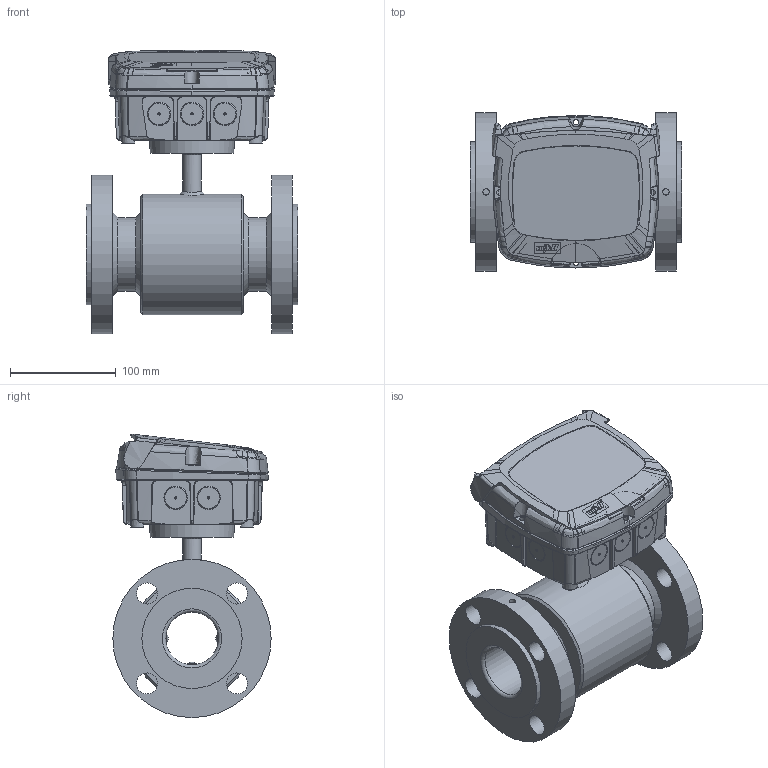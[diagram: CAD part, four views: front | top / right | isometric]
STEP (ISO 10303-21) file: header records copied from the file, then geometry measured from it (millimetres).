
FILE_DESCRIPTION((''),'2;1');
FILE_NAME('C:\Users\Claus\Dropbox\Projects 2011 - 2012\MJK Automation AS\DN 50 - ANSI B16,5.stp','2014-10-24T15:19:57',('Claus'),(''),'Autodesk Inventor 2013','Autodesk Inventor 2013','');
FILE_SCHEMA(('AUTOMOTIVE_DESIGN { 1 0 10303 214 1 1 1 1 }'));
Length unit declared in the file: millimetre
Products named in the file (7): DN 50 - ANSI B16,5; FC_MagFlux_assembly_r1; CH Bund ml; FC Top rev 06.04; CH 03.02; Electrode group DN15 - DN32
Assembly tree (8 placements, depth 3):
  DN 50 - ANSI B16,5
    DN 50 - ANSI B16,5
    FC_MagFlux_assembly_r1
      CH Bund ml
      FC Top rev 06.04
      CH 03.02
    Electrode group DN15 - DN32  x3
Bounding box: 200 x 150 x 268.34 mm (x, y, z)
Volume: 1900329.1 mm3; surface area: 425600.8 mm2
Topology: 10 solids, 10 shells, 2927 faces, 7970 edges, 5187 vertices
Faces by surface type: bspline 1752, plane 810, cylinder 202, cone 123, torus 25, revolution 9, sphere 6
Full cylindrical faces by diameter (mm): 2.5 x3, 3 x6, 4 x1, 6 x2, 6.5 x4, 7.042 x4, 8 x3, 8.048 x4, 12.072 x4, 15 x1, 18 x1, 18.108 x1, 20 x8, 50 x1, 64 x1, 70 x2, 95 x2, 114 x1, 150 x2
Entity records: 233788 total; most frequent: CARTESIAN_POINT 171524, ORIENTED_EDGE 15464, EDGE_CURVE 7732, DIRECTION 7709, VERTEX_POINT 5125, EDGE_LOOP 3241, VECTOR 3112, LINE 3112
